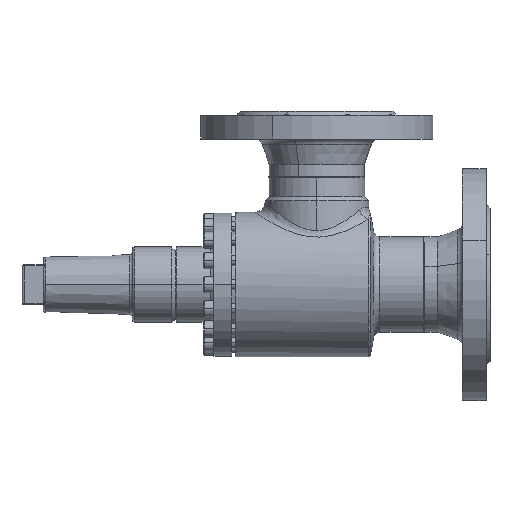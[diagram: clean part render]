
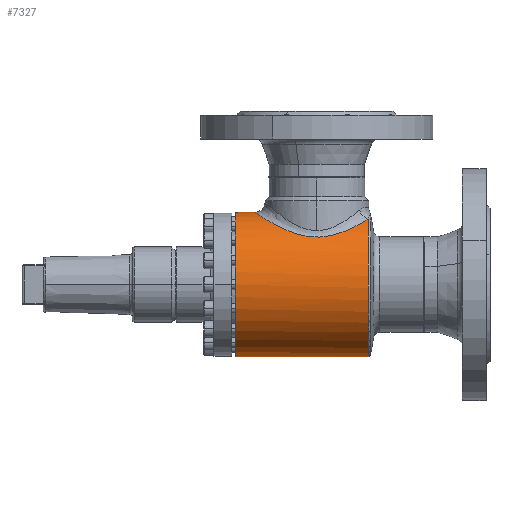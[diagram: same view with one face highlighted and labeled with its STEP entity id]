
A CAD part, left-side view. The second image highlights one B-rep face of the part: STEP entity #7327.
In plain terms, the highlighted cylindrical face has radius 57.5 mm (diameter 115 mm), a partial arc.
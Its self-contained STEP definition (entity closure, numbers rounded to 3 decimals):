
#190 = B_SPLINE_CURVE_WITH_KNOTS ( 'NONE', 3,
 ( #191, #192, #193, #194, #195, #196, #197, #198, #199, #200, #201, #202, #203, #204, #205, #208, #209, #210, #211, #212, #213, #214, #215, #216, #217, #218, #219, #220, #221, #222, #223, #229, #230, #231, #232, #233, #234, #235, #236, #237, #238, #239, #240, #241, #242, #243, #244, #248, #249, #250, #251, #252, #253, #254, #255, #256, #257, #258, #259, #260, #261, #262 ),
 .UNSPECIFIED., .F., .F.,
 ( 4, 2, 2, 2, 2, 2, 2, 2, 2, 2, 2, 2, 2, 2, 2, 2, 2, 2, 2, 2, 2, 2, 2, 2, 2, 2, 2, 2, 2, 2, 4 ),
 ( 0., 0.008, 0.016, 0.017, 0.019, 0.023, 0.031, 0.035, 0.039, 0.047, 0.049, 0.05, 0.054, 0.058, 0.06, 0.062, 0.07, 0.074, 0.078, 0.085, 0.089, 0.091, 0.093, 0.101, 0.105, 0.107, 0.109, 0.116, 0.118, 0.12, 0.124 ),
 .UNSPECIFIED. ) ;
#191 = CARTESIAN_POINT ( 'NONE',  ( -24.174, -105.892, 52.171 ) ) ;
#192 = CARTESIAN_POINT ( 'NONE',  ( -26.132, -104.39, 51.264 ) ) ;
#193 = CARTESIAN_POINT ( 'NONE',  ( -27.915, -102.76, 50.305 ) ) ;
#194 = CARTESIAN_POINT ( 'NONE',  ( -31.195, -99.268, 48.34 ) ) ;
#195 = CARTESIAN_POINT ( 'NONE',  ( -32.691, -97.405, 47.333 ) ) ;
#196 = CARTESIAN_POINT ( 'NONE',  ( -34.397, -94.927, 46.079 ) ) ;
#197 = CARTESIAN_POINT ( 'NONE',  ( -34.73, -94.424, 45.829 ) ) ;
#198 = CARTESIAN_POINT ( 'NONE',  ( -35.379, -93.402, 45.329 ) ) ;
#199 = CARTESIAN_POINT ( 'NONE',  ( -35.695, -92.884, 45.08 ) ) ;
#200 = CARTESIAN_POINT ( 'NONE',  ( -36.613, -91.317, 44.344 ) ) ;
#201 = CARTESIAN_POINT ( 'NONE',  ( -37.186, -90.253, 43.863 ) ) ;
#202 = CARTESIAN_POINT ( 'NONE',  ( -38.793, -86.998, 42.466 ) ) ;
#203 = CARTESIAN_POINT ( 'NONE',  ( -39.716, -84.747, 41.594 ) ) ;
#204 = CARTESIAN_POINT ( 'NONE',  ( -40.882, -81.225, 40.437 ) ) ;
#205 = CARTESIAN_POINT ( 'NONE',  ( -41.234, -80.027, 40.077 ) ) ;
#208 = CARTESIAN_POINT ( 'NONE',  ( -41.862, -77.576, 39.421 ) ) ;
#209 = CARTESIAN_POINT ( 'NONE',  ( -42.138, -76.319, 39.125 ) ) ;
#210 = CARTESIAN_POINT ( 'NONE',  ( -42.831, -72.529, 38.37 ) ) ;
#211 = CARTESIAN_POINT ( 'NONE',  ( -43.12, -69.961, 38.038 ) ) ;
#212 = CARTESIAN_POINT ( 'NONE',  ( -43.257, -66.692, 37.883 ) ) ;
#213 = CARTESIAN_POINT ( 'NONE',  ( -43.273, -66.034, 37.864 ) ) ;
#214 = CARTESIAN_POINT ( 'NONE',  ( -43.282, -64.718, 37.854 ) ) ;
#215 = CARTESIAN_POINT ( 'NONE',  ( -43.275, -64.063, 37.862 ) ) ;
#216 = CARTESIAN_POINT ( 'NONE',  ( -43.219, -62.103, 37.926 ) ) ;
#217 = CARTESIAN_POINT ( 'NONE',  ( -43.137, -60.806, 38.02 ) ) ;
#218 = CARTESIAN_POINT ( 'NONE',  ( -42.884, -58.229, 38.305 ) ) ;
#219 = CARTESIAN_POINT ( 'NONE',  ( -42.713, -56.95, 38.496 ) ) ;
#220 = CARTESIAN_POINT ( 'NONE',  ( -42.391, -55.043, 38.85 ) ) ;
#221 = CARTESIAN_POINT ( 'NONE',  ( -42.272, -54.408, 38.979 ) ) ;
#222 = CARTESIAN_POINT ( 'NONE',  ( -42.014, -53.15, 39.257 ) ) ;
#223 = CARTESIAN_POINT ( 'NONE',  ( -41.875, -52.528, 39.406 ) ) ;
#229 = CARTESIAN_POINT ( 'NONE',  ( -41.13, -49.446, 40.191 ) ) ;
#230 = CARTESIAN_POINT ( 'NONE',  ( -40.378, -47.077, 40.957 ) ) ;
#231 = CARTESIAN_POINT ( 'NONE',  ( -39.022, -43.642, 42.237 ) ) ;
#232 = CARTESIAN_POINT ( 'NONE',  ( -38.532, -42.517, 42.685 ) ) ;
#233 = CARTESIAN_POINT ( 'NONE',  ( -37.473, -40.304, 43.618 ) ) ;
#234 = CARTESIAN_POINT ( 'NONE',  ( -36.908, -39.223, 44.098 ) ) ;
#235 = CARTESIAN_POINT ( 'NONE',  ( -35.115, -36.073, 45.559 ) ) ;
#236 = CARTESIAN_POINT ( 'NONE',  ( -33.785, -34.085, 46.562 ) ) ;
#237 = CARTESIAN_POINT ( 'NONE',  ( -31.574, -31.259, 48.064 ) ) ;
#238 = CARTESIAN_POINT ( 'NONE',  ( -30.801, -30.343, 48.564 ) ) ;
#239 = CARTESIAN_POINT ( 'NONE',  ( -29.582, -29.009, 49.309 ) ) ;
#240 = CARTESIAN_POINT ( 'NONE',  ( -29.166, -28.57, 49.557 ) ) ;
#241 = CARTESIAN_POINT ( 'NONE',  ( -28.313, -27.708, 50.049 ) ) ;
#242 = CARTESIAN_POINT ( 'NONE',  ( -27.875, -27.282, 50.294 ) ) ;
#243 = CARTESIAN_POINT ( 'NONE',  ( -25.646, -25.201, 51.504 ) ) ;
#244 = CARTESIAN_POINT ( 'NONE',  ( -23.737, -23.688, 52.419 ) ) ;
#248 = CARTESIAN_POINT ( 'NONE',  ( -20.66, -21.659, 53.671 ) ) ;
#249 = CARTESIAN_POINT ( 'NONE',  ( -19.599, -21.023, 54.069 ) ) ;
#250 = CARTESIAN_POINT ( 'NONE',  ( -17.948, -20.134, 54.63 ) ) ;
#251 = CARTESIAN_POINT ( 'NONE',  ( -17.388, -19.848, 54.811 ) ) ;
#252 = CARTESIAN_POINT ( 'NONE',  ( -16.247, -19.3, 55.16 ) ) ;
#253 = CARTESIAN_POINT ( 'NONE',  ( -15.665, -19.037, 55.328 ) ) ;
#254 = CARTESIAN_POINT ( 'NONE',  ( -12.734, -17.796, 56.125 ) ) ;
#255 = CARTESIAN_POINT ( 'NONE',  ( -10.302, -17.028, 56.627 ) ) ;
#256 = CARTESIAN_POINT ( 'NONE',  ( -7.142, -16.371, 57.058 ) ) ;
#257 = CARTESIAN_POINT ( 'NONE',  ( -6.505, -16.254, 57.135 ) ) ;
#258 = CARTESIAN_POINT ( 'NONE',  ( -5.216, -16.054, 57.267 ) ) ;
#259 = CARTESIAN_POINT ( 'NONE',  ( -4.563, -15.969, 57.322 ) ) ;
#260 = CARTESIAN_POINT ( 'NONE',  ( -2.602, -15.766, 57.456 ) ) ;
#261 = CARTESIAN_POINT ( 'NONE',  ( -1.298, -15.7, 57.5 ) ) ;
#262 = CARTESIAN_POINT ( 'NONE',  ( 0., -15.7, 57.5 ) ) ;
#16740 = CIRCLE ( 'NONE', #16741, 57.5 ) ;
#16741 = AXIS2_PLACEMENT_3D ( 'NONE', #16742, #16743, #16744 ) ;
#16742 = CARTESIAN_POINT ( 'NONE',  ( 0., -105.892, 0. ) ) ;
#16743 = DIRECTION ( 'NONE',  ( 0., 1., 0. ) ) ;
#16744 = DIRECTION ( 'NONE',  ( 0., 0., -1. ) ) ;
#384 = CIRCLE ( 'NONE', #385, 57.5 ) ;
#385 = AXIS2_PLACEMENT_3D ( 'NONE', #386, #387, #388 ) ;
#386 = CARTESIAN_POINT ( 'NONE',  ( 0., 0., 0. ) ) ;
#387 = DIRECTION ( 'NONE',  ( 0., 1., 0. ) ) ;
#388 = DIRECTION ( 'NONE',  ( 0., 0., 1. ) ) ;
#16973 = CARTESIAN_POINT ( 'NONE',  ( 0., 0., 57.5 ) ) ;
#17146 = EDGE_CURVE ( 'NONE', #7002, #5698, #5527, .T. ) ;
#17249 = CARTESIAN_POINT ( 'NONE',  ( 0., -15.7, 57.5 ) ) ;
#17424 = LINE ( 'NONE', #17425, #17426 ) ;
#1054 = EDGE_CURVE ( 'NONE', #7002, #2938, #16740, .T. ) ;
#17425 = CARTESIAN_POINT ( 'NONE',  ( 0., -111., 57.5 ) ) ;
#17426 = VECTOR ( 'NONE', #17427, 1000. ) ;
#17427 = DIRECTION ( 'NONE',  ( 0., 1., 0. ) ) ;
#1224 = VERTEX_POINT ( 'NONE', #16973 ) ;
#1870 = CARTESIAN_POINT ( 'NONE',  ( 0., 0., -57.5 ) ) ;
#18329 = CARTESIAN_POINT ( 'NONE',  ( -24.174, -105.892, 52.171 ) ) ;
#18342 = ORIENTED_EDGE ( 'NONE', *, *, #11136, .T. ) ;
#18471 = ORIENTED_EDGE ( 'NONE', *, *, #17146, .F. ) ;
#2426 = ORIENTED_EDGE ( 'NONE', *, *, #3805, .T. ) ;
#2938 = VERTEX_POINT ( 'NONE', #18329 ) ;
#3805 = EDGE_CURVE ( 'NONE', #2938, #10942, #190, .T. ) ;
#3993 = EDGE_CURVE ( 'NONE', #5698, #1224, #384, .T. ) ;
#5125 = CARTESIAN_POINT ( 'NONE',  ( 0., -105.892, -57.5 ) ) ;
#5346 = FACE_OUTER_BOUND ( 'NONE', #10028, .T. ) ;
#5347 = CYLINDRICAL_SURFACE ( 'NONE', #5348, 57.5 ) ;
#5348 = AXIS2_PLACEMENT_3D ( 'NONE', #5349, #5350, #5351 ) ;
#5349 = CARTESIAN_POINT ( 'NONE',  ( 0., -111., 0. ) ) ;
#5350 = DIRECTION ( 'NONE',  ( 0., 1., 0. ) ) ;
#5351 = DIRECTION ( 'NONE',  ( 0., 0., 1. ) ) ;
#5527 = LINE ( 'NONE', #5530, #5531 ) ;
#5530 = CARTESIAN_POINT ( 'NONE',  ( 0., -111., -57.5 ) ) ;
#5531 = VECTOR ( 'NONE', #5532, 1000. ) ;
#5532 = DIRECTION ( 'NONE',  ( 0., 1., 0. ) ) ;
#5698 = VERTEX_POINT ( 'NONE', #1870 ) ;
#7002 = VERTEX_POINT ( 'NONE', #5125 ) ;
#7327 = ADVANCED_FACE ( 'NONE', ( #5346 ), #5347, .T. ) ;
#9278 = ORIENTED_EDGE ( 'NONE', *, *, #1054, .T. ) ;
#10028 = EDGE_LOOP ( 'NONE', ( #18471, #9278, #2426, #18342, #10793 ) ) ;
#10793 = ORIENTED_EDGE ( 'NONE', *, *, #3993, .F. ) ;
#10942 = VERTEX_POINT ( 'NONE', #17249 ) ;
#11136 = EDGE_CURVE ( 'NONE', #10942, #1224, #17424, .T. ) ;
